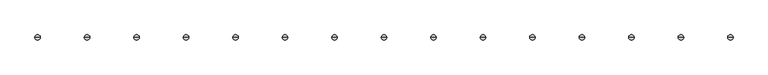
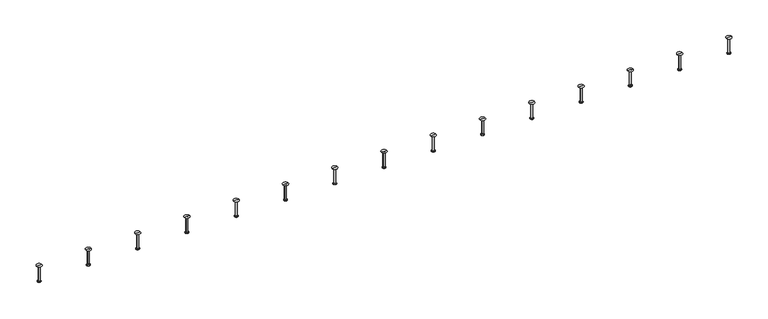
"""IFC4 building model written with IfcOpenShell, lengths in millimetres: fastener geometry, JTA-W JORDAHL® AnchorChannels : JTA-W L=6000 mm."""

from ifc_helpers import new_model, si_unit, frame, origin, place, context, project, spatial, polyline, circle_curve, source, transform, mapped, element, save
from ifc_brep_helpers import plane_surface, cylinder_surface, revolved_surface, advanced_brep


def fastener_0afebf88(model_context):
    return source(origin(), model_context, "Body", "AdvancedBrep", [
        advanced_brep(
        [(3991.6666667, 0.0, -30.0), (3978.1666667, 0.0, -30.0), (4005.1666667, 0.0, -30.0), (3983.1666667, 0.0, -115.0), (3991.6666667, 0.0, -115.0), (4000.1666667, 0.0, -115.0), (3983.1666667, 0.0, -113.0), (4000.1666667, 0.0, -113.0), (3987.1666667, 0.0, -110.6905989), (3996.1666667, 0.0, -110.6905989), (3987.1666667, 0.0, -32.5), (3996.1666667, 0.0, -32.5)],
        [
            (0, 1),
            (1, 2, circle_curve(frame((3991.6666667, 0.0, -30.0), z_axis=(0.0, 0.0, 1.0), x_axis=(1.0, 0.0, 0.0)), 13.5)),
            (2, 0),
            (2, 1, circle_curve(frame((3991.6666667, 0.0, -30.0), z_axis=(0.0, 0.0, 1.0), x_axis=(1.0, 0.0, 0.0)), 13.5)),
            (3, 4),
            (4, 5),
            (5, 3, circle_curve(frame((3991.6666667, 0.0, -115.0), z_axis=(0.0, 0.0, -1.0), x_axis=(1.0, 0.0, 0.0)), 8.5)),
            (3, 5, circle_curve(frame((3991.6666667, 0.0, -115.0), z_axis=(0.0, 0.0, -1.0), x_axis=(1.0, 0.0, 0.0)), 8.5)),
            (6, 3),
            (5, 7),
            (7, 6, circle_curve(frame((3991.6666667, 0.0, -113.0), z_axis=(0.0, 0.0, -1.0), x_axis=(1.0, 0.0, 0.0)), 8.5)),
            (6, 7, circle_curve(frame((3991.6666667, 0.0, -113.0), z_axis=(0.0, 0.0, -1.0), x_axis=(1.0, 0.0, 0.0)), 8.5)),
            (8, 6),
            (7, 9),
            (9, 8, circle_curve(frame((3991.6666667, 0.0, -110.6905989), z_axis=(0.0, 0.0, -1.0), x_axis=(1.0, 0.0, 0.0)), 4.5)),
            (8, 9, circle_curve(frame((3991.6666667, 0.0, -110.6905989), z_axis=(0.0, 0.0, -1.0), x_axis=(1.0, 0.0, 0.0)), 4.5)),
            (10, 8),
            (9, 11),
            (11, 10, circle_curve(frame((3991.6666667, 0.0, -32.5), z_axis=(0.0, 0.0, -1.0), x_axis=(1.0, 0.0, 0.0)), 4.5)),
            (10, 11, circle_curve(frame((3991.6666667, 0.0, -32.5), z_axis=(0.0, 0.0, -1.0), x_axis=(1.0, 0.0, 0.0)), 4.5)),
            (1, 10),
            (11, 2),
        ],
        [
            plane_surface(frame((3991.6666667, 0.0, -30.0), z_axis=(0.0, 0.0, 1.0), x_axis=(1.0, 0.0, 0.0))),
            plane_surface(frame((3991.6666667, 0.0, -115.0), z_axis=(0.0, 0.0, -1.0), x_axis=(1.0, 0.0, 0.0))),
            cylinder_surface(frame((3991.6666667, 0.0, 2299.3150031), z_axis=(0.0, 0.0, 1.0), x_axis=(1.0, 0.0, 0.0)), 8.5),
            revolved_surface(polyline([(4000.1666667, 0.0, -113.0), (3996.1666667, 0.0, -110.6905989)]), (3991.6666667, 0.0, 2299.3150031), (0.0, 0.0, 1.0)),
            cylinder_surface(frame((3991.6666667, 0.0, 2299.3150031), z_axis=(0.0, 0.0, 1.0), x_axis=(1.0, 0.0, 0.0)), 4.5),
            revolved_surface(polyline([(3996.1666667, 0.0, -32.5), (4005.1666667, 0.0, -30.0)]), (3991.6666667, 0.0, 2299.3150031), (0.0, 0.0, 1.0)),
        ],
        [
            (0, [[1, 2, 3]]),
            (0, [[-3, 4, -1]]),
            (1, [[5, 6, 7]]),
            (1, [[-6, -5, 8]]),
            (2, [[9, -7, 10, 11]]),
            (2, [[-10, -8, -9, 12]]),
            (3, [[13, -11, 14, 15]]),
            (3, [[-14, -12, -13, 16]]),
            (4, [[17, -15, 18, 19]]),
            (4, [[-18, -16, -17, 20]]),
            (5, [[21, -19, 22, -2]]),
            (5, [[-22, -20, -21, -4]]),
        ],
    ),
        advanced_brep(
        [(3743.75, 0.0, -30.0), (3730.25, 0.0, -30.0), (3757.25, 0.0, -30.0), (3735.25, 0.0, -115.0), (3743.75, 0.0, -115.0), (3752.25, 0.0, -115.0), (3735.25, 0.0, -113.0), (3752.25, 0.0, -113.0), (3739.25, 0.0, -110.6905989), (3748.25, 0.0, -110.6905989), (3739.25, 0.0, -32.5), (3748.25, 0.0, -32.5)],
        [
            (0, 1),
            (1, 2, circle_curve(frame((3743.75, 0.0, -30.0), z_axis=(0.0, 0.0, 1.0), x_axis=(1.0, 0.0, 0.0)), 13.5)),
            (2, 0),
            (2, 1, circle_curve(frame((3743.75, 0.0, -30.0), z_axis=(0.0, 0.0, 1.0), x_axis=(1.0, 0.0, 0.0)), 13.5)),
            (3, 4),
            (4, 5),
            (5, 3, circle_curve(frame((3743.75, 0.0, -115.0), z_axis=(0.0, 0.0, -1.0), x_axis=(1.0, 0.0, 0.0)), 8.5)),
            (3, 5, circle_curve(frame((3743.75, 0.0, -115.0), z_axis=(0.0, 0.0, -1.0), x_axis=(1.0, 0.0, 0.0)), 8.5)),
            (6, 3),
            (5, 7),
            (7, 6, circle_curve(frame((3743.75, 0.0, -113.0), z_axis=(0.0, 0.0, -1.0), x_axis=(1.0, 0.0, 0.0)), 8.5)),
            (6, 7, circle_curve(frame((3743.75, 0.0, -113.0), z_axis=(0.0, 0.0, -1.0), x_axis=(1.0, 0.0, 0.0)), 8.5)),
            (8, 6),
            (7, 9),
            (9, 8, circle_curve(frame((3743.75, 0.0, -110.6905989), z_axis=(0.0, 0.0, -1.0), x_axis=(1.0, 0.0, 0.0)), 4.5)),
            (8, 9, circle_curve(frame((3743.75, 0.0, -110.6905989), z_axis=(0.0, 0.0, -1.0), x_axis=(1.0, 0.0, 0.0)), 4.5)),
            (10, 8),
            (9, 11),
            (11, 10, circle_curve(frame((3743.75, 0.0, -32.5), z_axis=(0.0, 0.0, -1.0), x_axis=(1.0, 0.0, 0.0)), 4.5)),
            (10, 11, circle_curve(frame((3743.75, 0.0, -32.5), z_axis=(0.0, 0.0, -1.0), x_axis=(1.0, 0.0, 0.0)), 4.5)),
            (1, 10),
            (11, 2),
        ],
        [
            plane_surface(frame((3743.75, 0.0, -30.0), z_axis=(0.0, 0.0, 1.0), x_axis=(1.0, 0.0, 0.0))),
            plane_surface(frame((3743.75, 0.0, -115.0), z_axis=(0.0, 0.0, -1.0), x_axis=(1.0, 0.0, 0.0))),
            cylinder_surface(frame((3743.75, 0.0, 2299.3150031), z_axis=(0.0, 0.0, 1.0), x_axis=(1.0, 0.0, 0.0)), 8.5),
            revolved_surface(polyline([(3752.25, 0.0, -113.0), (3748.25, 0.0, -110.6905989)]), (3743.75, 0.0, 2299.3150031), (0.0, 0.0, 1.0)),
            cylinder_surface(frame((3743.75, 0.0, 2299.3150031), z_axis=(0.0, 0.0, 1.0), x_axis=(1.0, 0.0, 0.0)), 4.5),
            revolved_surface(polyline([(3748.25, 0.0, -32.5), (3757.25, 0.0, -30.0)]), (3743.75, 0.0, 2299.3150031), (0.0, 0.0, 1.0)),
        ],
        [
            (0, [[1, 2, 3]]),
            (0, [[-3, 4, -1]]),
            (1, [[5, 6, 7]]),
            (1, [[-6, -5, 8]]),
            (2, [[9, -7, 10, 11]]),
            (2, [[-10, -8, -9, 12]]),
            (3, [[13, -11, 14, 15]]),
            (3, [[-14, -12, -13, 16]]),
            (4, [[17, -15, 18, 19]]),
            (4, [[-18, -16, -17, 20]]),
            (5, [[21, -19, 22, -2]]),
            (5, [[-22, -20, -21, -4]]),
        ],
    ),
        advanced_brep(
        [(3495.8333333, 0.0, -30.0), (3482.3333333, 0.0, -30.0), (3509.3333333, 0.0, -30.0), (3487.3333333, 0.0, -115.0), (3495.8333333, 0.0, -115.0), (3504.3333333, 0.0, -115.0), (3487.3333333, 0.0, -113.0), (3504.3333333, 0.0, -113.0), (3491.3333333, 0.0, -110.6905989), (3500.3333333, 0.0, -110.6905989), (3491.3333333, 0.0, -32.5), (3500.3333333, 0.0, -32.5)],
        [
            (0, 1),
            (1, 2, circle_curve(frame((3495.8333333, 0.0, -30.0), z_axis=(0.0, 0.0, 1.0), x_axis=(1.0, 0.0, 0.0)), 13.5)),
            (2, 0),
            (2, 1, circle_curve(frame((3495.8333333, 0.0, -30.0), z_axis=(0.0, 0.0, 1.0), x_axis=(1.0, 0.0, 0.0)), 13.5)),
            (3, 4),
            (4, 5),
            (5, 3, circle_curve(frame((3495.8333333, 0.0, -115.0), z_axis=(0.0, 0.0, -1.0), x_axis=(1.0, 0.0, 0.0)), 8.5)),
            (3, 5, circle_curve(frame((3495.8333333, 0.0, -115.0), z_axis=(0.0, 0.0, -1.0), x_axis=(1.0, 0.0, 0.0)), 8.5)),
            (6, 3),
            (5, 7),
            (7, 6, circle_curve(frame((3495.8333333, 0.0, -113.0), z_axis=(0.0, 0.0, -1.0), x_axis=(1.0, 0.0, 0.0)), 8.5)),
            (6, 7, circle_curve(frame((3495.8333333, 0.0, -113.0), z_axis=(0.0, 0.0, -1.0), x_axis=(1.0, 0.0, 0.0)), 8.5)),
            (8, 6),
            (7, 9),
            (9, 8, circle_curve(frame((3495.8333333, 0.0, -110.6905989), z_axis=(0.0, 0.0, -1.0), x_axis=(1.0, 0.0, 0.0)), 4.5)),
            (8, 9, circle_curve(frame((3495.8333333, 0.0, -110.6905989), z_axis=(0.0, 0.0, -1.0), x_axis=(1.0, 0.0, 0.0)), 4.5)),
            (10, 8),
            (9, 11),
            (11, 10, circle_curve(frame((3495.8333333, 0.0, -32.5), z_axis=(0.0, 0.0, -1.0), x_axis=(1.0, 0.0, 0.0)), 4.5)),
            (10, 11, circle_curve(frame((3495.8333333, 0.0, -32.5), z_axis=(0.0, 0.0, -1.0), x_axis=(1.0, 0.0, 0.0)), 4.5)),
            (1, 10),
            (11, 2),
        ],
        [
            plane_surface(frame((3495.8333333, 0.0, -30.0), z_axis=(0.0, 0.0, 1.0), x_axis=(1.0, 0.0, 0.0))),
            plane_surface(frame((3495.8333333, 0.0, -115.0), z_axis=(0.0, 0.0, -1.0), x_axis=(1.0, 0.0, 0.0))),
            cylinder_surface(frame((3495.8333333, 0.0, 2299.3150031), z_axis=(0.0, 0.0, 1.0), x_axis=(1.0, 0.0, 0.0)), 8.5),
            revolved_surface(polyline([(3504.3333333, 0.0, -113.0), (3500.3333333, 0.0, -110.6905989)]), (3495.8333333, 0.0, 2299.3150031), (0.0, 0.0, 1.0)),
            cylinder_surface(frame((3495.8333333, 0.0, 2299.3150031), z_axis=(0.0, 0.0, 1.0), x_axis=(1.0, 0.0, 0.0)), 4.5),
            revolved_surface(polyline([(3500.3333333, 0.0, -32.5), (3509.3333333, 0.0, -30.0)]), (3495.8333333, 0.0, 2299.3150031), (0.0, 0.0, 1.0)),
        ],
        [
            (0, [[1, 2, 3]]),
            (0, [[-3, 4, -1]]),
            (1, [[5, 6, 7]]),
            (1, [[-6, -5, 8]]),
            (2, [[9, -7, 10, 11]]),
            (2, [[-10, -8, -9, 12]]),
            (3, [[13, -11, 14, 15]]),
            (3, [[-14, -12, -13, 16]]),
            (4, [[17, -15, 18, 19]]),
            (4, [[-18, -16, -17, 20]]),
            (5, [[21, -19, 22, -2]]),
            (5, [[-22, -20, -21, -4]]),
        ],
    ),
        advanced_brep(
        [(3247.9166667, 0.0, -30.0), (3234.4166667, 0.0, -30.0), (3261.4166667, 0.0, -30.0), (3239.4166667, 0.0, -115.0), (3247.9166667, 0.0, -115.0), (3256.4166667, 0.0, -115.0), (3239.4166667, 0.0, -113.0), (3256.4166667, 0.0, -113.0), (3243.4166667, 0.0, -110.6905989), (3252.4166667, 0.0, -110.6905989), (3243.4166667, 0.0, -32.5), (3252.4166667, 0.0, -32.5)],
        [
            (0, 1),
            (1, 2, circle_curve(frame((3247.9166667, 0.0, -30.0), z_axis=(0.0, 0.0, 1.0), x_axis=(1.0, 0.0, 0.0)), 13.5)),
            (2, 0),
            (2, 1, circle_curve(frame((3247.9166667, 0.0, -30.0), z_axis=(0.0, 0.0, 1.0), x_axis=(1.0, 0.0, 0.0)), 13.5)),
            (3, 4),
            (4, 5),
            (5, 3, circle_curve(frame((3247.9166667, 0.0, -115.0), z_axis=(0.0, 0.0, -1.0), x_axis=(1.0, 0.0, 0.0)), 8.5)),
            (3, 5, circle_curve(frame((3247.9166667, 0.0, -115.0), z_axis=(0.0, 0.0, -1.0), x_axis=(1.0, 0.0, 0.0)), 8.5)),
            (6, 3),
            (5, 7),
            (7, 6, circle_curve(frame((3247.9166667, 0.0, -113.0), z_axis=(0.0, 0.0, -1.0), x_axis=(1.0, 0.0, 0.0)), 8.5)),
            (6, 7, circle_curve(frame((3247.9166667, 0.0, -113.0), z_axis=(0.0, 0.0, -1.0), x_axis=(1.0, 0.0, 0.0)), 8.5)),
            (8, 6),
            (7, 9),
            (9, 8, circle_curve(frame((3247.9166667, 0.0, -110.6905989), z_axis=(0.0, 0.0, -1.0), x_axis=(1.0, 0.0, 0.0)), 4.5)),
            (8, 9, circle_curve(frame((3247.9166667, 0.0, -110.6905989), z_axis=(0.0, 0.0, -1.0), x_axis=(1.0, 0.0, 0.0)), 4.5)),
            (10, 8),
            (9, 11),
            (11, 10, circle_curve(frame((3247.9166667, 0.0, -32.5), z_axis=(0.0, 0.0, -1.0), x_axis=(1.0, 0.0, 0.0)), 4.5)),
            (10, 11, circle_curve(frame((3247.9166667, 0.0, -32.5), z_axis=(0.0, 0.0, -1.0), x_axis=(1.0, 0.0, 0.0)), 4.5)),
            (1, 10),
            (11, 2),
        ],
        [
            plane_surface(frame((3247.9166667, 0.0, -30.0), z_axis=(0.0, 0.0, 1.0), x_axis=(1.0, 0.0, 0.0))),
            plane_surface(frame((3247.9166667, 0.0, -115.0), z_axis=(0.0, 0.0, -1.0), x_axis=(1.0, 0.0, 0.0))),
            cylinder_surface(frame((3247.9166667, 0.0, 2299.3150031), z_axis=(0.0, 0.0, 1.0), x_axis=(1.0, 0.0, 0.0)), 8.5),
            revolved_surface(polyline([(3256.4166667, 0.0, -113.0), (3252.4166667, 0.0, -110.6905989)]), (3247.9166667, 0.0, 2299.3150031), (0.0, 0.0, 1.0)),
            cylinder_surface(frame((3247.9166667, 0.0, 2299.3150031), z_axis=(0.0, 0.0, 1.0), x_axis=(1.0, 0.0, 0.0)), 4.5),
            revolved_surface(polyline([(3252.4166667, 0.0, -32.5), (3261.4166667, 0.0, -30.0)]), (3247.9166667, 0.0, 2299.3150031), (0.0, 0.0, 1.0)),
        ],
        [
            (0, [[1, 2, 3]]),
            (0, [[-3, 4, -1]]),
            (1, [[5, 6, 7]]),
            (1, [[-6, -5, 8]]),
            (2, [[9, -7, 10, 11]]),
            (2, [[-10, -8, -9, 12]]),
            (3, [[13, -11, 14, 15]]),
            (3, [[-14, -12, -13, 16]]),
            (4, [[17, -15, 18, 19]]),
            (4, [[-18, -16, -17, 20]]),
            (5, [[21, -19, 22, -2]]),
            (5, [[-22, -20, -21, -4]]),
        ],
    ),
        advanced_brep(
        [(3000.0, 0.0, -30.0), (2986.5, 0.0, -30.0), (3013.5, 0.0, -30.0), (2991.5, 0.0, -115.0), (3000.0, 0.0, -115.0), (3008.5, 0.0, -115.0), (2991.5, 0.0, -113.0), (3008.5, 0.0, -113.0), (2995.5, 0.0, -110.6905989), (3004.5, 0.0, -110.6905989), (2995.5, 0.0, -32.5), (3004.5, 0.0, -32.5)],
        [
            (0, 1),
            (1, 2, circle_curve(frame((3000.0, 0.0, -30.0), z_axis=(0.0, 0.0, 1.0), x_axis=(1.0, 0.0, 0.0)), 13.5)),
            (2, 0),
            (2, 1, circle_curve(frame((3000.0, 0.0, -30.0), z_axis=(0.0, 0.0, 1.0), x_axis=(1.0, 0.0, 0.0)), 13.5)),
            (3, 4),
            (4, 5),
            (5, 3, circle_curve(frame((3000.0, 0.0, -115.0), z_axis=(0.0, 0.0, -1.0), x_axis=(1.0, 0.0, 0.0)), 8.5)),
            (3, 5, circle_curve(frame((3000.0, 0.0, -115.0), z_axis=(0.0, 0.0, -1.0), x_axis=(1.0, 0.0, 0.0)), 8.5)),
            (6, 3),
            (5, 7),
            (7, 6, circle_curve(frame((3000.0, 0.0, -113.0), z_axis=(0.0, 0.0, -1.0), x_axis=(1.0, 0.0, 0.0)), 8.5)),
            (6, 7, circle_curve(frame((3000.0, 0.0, -113.0), z_axis=(0.0, 0.0, -1.0), x_axis=(1.0, 0.0, 0.0)), 8.5)),
            (8, 6),
            (7, 9),
            (9, 8, circle_curve(frame((3000.0, 0.0, -110.6905989), z_axis=(0.0, 0.0, -1.0), x_axis=(1.0, 0.0, 0.0)), 4.5)),
            (8, 9, circle_curve(frame((3000.0, 0.0, -110.6905989), z_axis=(0.0, 0.0, -1.0), x_axis=(1.0, 0.0, 0.0)), 4.5)),
            (10, 8),
            (9, 11),
            (11, 10, circle_curve(frame((3000.0, 0.0, -32.5), z_axis=(0.0, 0.0, -1.0), x_axis=(1.0, 0.0, 0.0)), 4.5)),
            (10, 11, circle_curve(frame((3000.0, 0.0, -32.5), z_axis=(0.0, 0.0, -1.0), x_axis=(1.0, 0.0, 0.0)), 4.5)),
            (1, 10),
            (11, 2),
        ],
        [
            plane_surface(frame((3000.0, 0.0, -30.0), z_axis=(0.0, 0.0, 1.0), x_axis=(1.0, 0.0, 0.0))),
            plane_surface(frame((3000.0, 0.0, -115.0), z_axis=(0.0, 0.0, -1.0), x_axis=(1.0, 0.0, 0.0))),
            cylinder_surface(frame((3000.0, 0.0, 2299.3150031), z_axis=(0.0, 0.0, 1.0), x_axis=(1.0, 0.0, 0.0)), 8.5),
            revolved_surface(polyline([(3008.5, 0.0, -113.0), (3004.5, 0.0, -110.6905989)]), (3000.0, 0.0, 2299.3150031), (0.0, 0.0, 1.0)),
            cylinder_surface(frame((3000.0, 0.0, 2299.3150031), z_axis=(0.0, 0.0, 1.0), x_axis=(1.0, 0.0, 0.0)), 4.5),
            revolved_surface(polyline([(3004.5, 0.0, -32.5), (3013.5, 0.0, -30.0)]), (3000.0, 0.0, 2299.3150031), (0.0, 0.0, 1.0)),
        ],
        [
            (0, [[1, 2, 3]]),
            (0, [[-3, 4, -1]]),
            (1, [[5, 6, 7]]),
            (1, [[-6, -5, 8]]),
            (2, [[9, -7, 10, 11]]),
            (2, [[-10, -8, -9, 12]]),
            (3, [[13, -11, 14, 15]]),
            (3, [[-14, -12, -13, 16]]),
            (4, [[17, -15, 18, 19]]),
            (4, [[-18, -16, -17, 20]]),
            (5, [[21, -19, 22, -2]]),
            (5, [[-22, -20, -21, -4]]),
        ],
    ),
        advanced_brep(
        [(2752.0833333, 0.0, -30.0), (2738.5833333, 0.0, -30.0), (2765.5833333, 0.0, -30.0), (2743.5833333, 0.0, -115.0), (2752.0833333, 0.0, -115.0), (2760.5833333, 0.0, -115.0), (2743.5833333, 0.0, -113.0), (2760.5833333, 0.0, -113.0), (2747.5833333, 0.0, -110.6905989), (2756.5833333, 0.0, -110.6905989), (2747.5833333, 0.0, -32.5), (2756.5833333, 0.0, -32.5)],
        [
            (0, 1),
            (1, 2, circle_curve(frame((2752.0833333, 0.0, -30.0), z_axis=(0.0, 0.0, 1.0), x_axis=(1.0, 0.0, 0.0)), 13.5)),
            (2, 0),
            (2, 1, circle_curve(frame((2752.0833333, 0.0, -30.0), z_axis=(0.0, 0.0, 1.0), x_axis=(1.0, 0.0, 0.0)), 13.5)),
            (3, 4),
            (4, 5),
            (5, 3, circle_curve(frame((2752.0833333, 0.0, -115.0), z_axis=(0.0, 0.0, -1.0), x_axis=(1.0, 0.0, 0.0)), 8.5)),
            (3, 5, circle_curve(frame((2752.0833333, 0.0, -115.0), z_axis=(0.0, 0.0, -1.0), x_axis=(1.0, 0.0, 0.0)), 8.5)),
            (6, 3),
            (5, 7),
            (7, 6, circle_curve(frame((2752.0833333, 0.0, -113.0), z_axis=(0.0, 0.0, -1.0), x_axis=(1.0, 0.0, 0.0)), 8.5)),
            (6, 7, circle_curve(frame((2752.0833333, 0.0, -113.0), z_axis=(0.0, 0.0, -1.0), x_axis=(1.0, 0.0, 0.0)), 8.5)),
            (8, 6),
            (7, 9),
            (9, 8, circle_curve(frame((2752.0833333, 0.0, -110.6905989), z_axis=(0.0, 0.0, -1.0), x_axis=(1.0, 0.0, 0.0)), 4.5)),
            (8, 9, circle_curve(frame((2752.0833333, 0.0, -110.6905989), z_axis=(0.0, 0.0, -1.0), x_axis=(1.0, 0.0, 0.0)), 4.5)),
            (10, 8),
            (9, 11),
            (11, 10, circle_curve(frame((2752.0833333, 0.0, -32.5), z_axis=(0.0, 0.0, -1.0), x_axis=(1.0, 0.0, 0.0)), 4.5)),
            (10, 11, circle_curve(frame((2752.0833333, 0.0, -32.5), z_axis=(0.0, 0.0, -1.0), x_axis=(1.0, 0.0, 0.0)), 4.5)),
            (1, 10),
            (11, 2),
        ],
        [
            plane_surface(frame((2752.0833333, 0.0, -30.0), z_axis=(0.0, 0.0, 1.0), x_axis=(1.0, 0.0, 0.0))),
            plane_surface(frame((2752.0833333, 0.0, -115.0), z_axis=(0.0, 0.0, -1.0), x_axis=(1.0, 0.0, 0.0))),
            cylinder_surface(frame((2752.0833333, 0.0, 2299.3150031), z_axis=(0.0, 0.0, 1.0), x_axis=(1.0, 0.0, 0.0)), 8.5),
            revolved_surface(polyline([(2760.5833333, 0.0, -113.0), (2756.5833333, 0.0, -110.6905989)]), (2752.0833333, 0.0, 2299.3150031), (0.0, 0.0, 1.0)),
            cylinder_surface(frame((2752.0833333, 0.0, 2299.3150031), z_axis=(0.0, 0.0, 1.0), x_axis=(1.0, 0.0, 0.0)), 4.5),
            revolved_surface(polyline([(2756.5833333, 0.0, -32.5), (2765.5833333, 0.0, -30.0)]), (2752.0833333, 0.0, 2299.3150031), (0.0, 0.0, 1.0)),
        ],
        [
            (0, [[1, 2, 3]]),
            (0, [[-3, 4, -1]]),
            (1, [[5, 6, 7]]),
            (1, [[-6, -5, 8]]),
            (2, [[9, -7, 10, 11]]),
            (2, [[-10, -8, -9, 12]]),
            (3, [[13, -11, 14, 15]]),
            (3, [[-14, -12, -13, 16]]),
            (4, [[17, -15, 18, 19]]),
            (4, [[-18, -16, -17, 20]]),
            (5, [[21, -19, 22, -2]]),
            (5, [[-22, -20, -21, -4]]),
        ],
    ),
        advanced_brep(
        [(2504.1666667, 0.0, -30.0), (2490.6666667, 0.0, -30.0), (2517.6666667, 0.0, -30.0), (2495.6666667, 0.0, -115.0), (2504.1666667, 0.0, -115.0), (2512.6666667, 0.0, -115.0), (2495.6666667, 0.0, -113.0), (2512.6666667, 0.0, -113.0), (2499.6666667, 0.0, -110.6905989), (2508.6666667, 0.0, -110.6905989), (2499.6666667, 0.0, -32.5), (2508.6666667, 0.0, -32.5)],
        [
            (0, 1),
            (1, 2, circle_curve(frame((2504.1666667, 0.0, -30.0), z_axis=(0.0, 0.0, 1.0), x_axis=(1.0, 0.0, 0.0)), 13.5)),
            (2, 0),
            (2, 1, circle_curve(frame((2504.1666667, 0.0, -30.0), z_axis=(0.0, 0.0, 1.0), x_axis=(1.0, 0.0, 0.0)), 13.5)),
            (3, 4),
            (4, 5),
            (5, 3, circle_curve(frame((2504.1666667, 0.0, -115.0), z_axis=(0.0, 0.0, -1.0), x_axis=(1.0, 0.0, 0.0)), 8.5)),
            (3, 5, circle_curve(frame((2504.1666667, 0.0, -115.0), z_axis=(0.0, 0.0, -1.0), x_axis=(1.0, 0.0, 0.0)), 8.5)),
            (6, 3),
            (5, 7),
            (7, 6, circle_curve(frame((2504.1666667, 0.0, -113.0), z_axis=(0.0, 0.0, -1.0), x_axis=(1.0, 0.0, 0.0)), 8.5)),
            (6, 7, circle_curve(frame((2504.1666667, 0.0, -113.0), z_axis=(0.0, 0.0, -1.0), x_axis=(1.0, 0.0, 0.0)), 8.5)),
            (8, 6),
            (7, 9),
            (9, 8, circle_curve(frame((2504.1666667, 0.0, -110.6905989), z_axis=(0.0, 0.0, -1.0), x_axis=(1.0, 0.0, 0.0)), 4.5)),
            (8, 9, circle_curve(frame((2504.1666667, 0.0, -110.6905989), z_axis=(0.0, 0.0, -1.0), x_axis=(1.0, 0.0, 0.0)), 4.5)),
            (10, 8),
            (9, 11),
            (11, 10, circle_curve(frame((2504.1666667, 0.0, -32.5), z_axis=(0.0, 0.0, -1.0), x_axis=(1.0, 0.0, 0.0)), 4.5)),
            (10, 11, circle_curve(frame((2504.1666667, 0.0, -32.5), z_axis=(0.0, 0.0, -1.0), x_axis=(1.0, 0.0, 0.0)), 4.5)),
            (1, 10),
            (11, 2),
        ],
        [
            plane_surface(frame((2504.1666667, 0.0, -30.0), z_axis=(0.0, 0.0, 1.0), x_axis=(1.0, 0.0, 0.0))),
            plane_surface(frame((2504.1666667, 0.0, -115.0), z_axis=(0.0, 0.0, -1.0), x_axis=(1.0, 0.0, 0.0))),
            cylinder_surface(frame((2504.1666667, 0.0, 2299.3150031), z_axis=(0.0, 0.0, 1.0), x_axis=(1.0, 0.0, 0.0)), 8.5),
            revolved_surface(polyline([(2512.6666667, 0.0, -113.0), (2508.6666667, 0.0, -110.6905989)]), (2504.1666667, 0.0, 2299.3150031), (0.0, 0.0, 1.0)),
            cylinder_surface(frame((2504.1666667, 0.0, 2299.3150031), z_axis=(0.0, 0.0, 1.0), x_axis=(1.0, 0.0, 0.0)), 4.5),
            revolved_surface(polyline([(2508.6666667, 0.0, -32.5), (2517.6666667, 0.0, -30.0)]), (2504.1666667, 0.0, 2299.3150031), (0.0, 0.0, 1.0)),
        ],
        [
            (0, [[1, 2, 3]]),
            (0, [[-3, 4, -1]]),
            (1, [[5, 6, 7]]),
            (1, [[-6, -5, 8]]),
            (2, [[9, -7, 10, 11]]),
            (2, [[-10, -8, -9, 12]]),
            (3, [[13, -11, 14, 15]]),
            (3, [[-14, -12, -13, 16]]),
            (4, [[17, -15, 18, 19]]),
            (4, [[-18, -16, -17, 20]]),
            (5, [[21, -19, 22, -2]]),
            (5, [[-22, -20, -21, -4]]),
        ],
    ),
        advanced_brep(
        [(2256.25, 0.0, -30.0), (2242.75, 0.0, -30.0), (2269.75, 0.0, -30.0), (2247.75, 0.0, -115.0), (2256.25, 0.0, -115.0), (2264.75, 0.0, -115.0), (2247.75, 0.0, -113.0), (2264.75, 0.0, -113.0), (2251.75, 0.0, -110.6905989), (2260.75, 0.0, -110.6905989), (2251.75, 0.0, -32.5), (2260.75, 0.0, -32.5)],
        [
            (0, 1),
            (1, 2, circle_curve(frame((2256.25, 0.0, -30.0), z_axis=(0.0, 0.0, 1.0), x_axis=(1.0, 0.0, 0.0)), 13.5)),
            (2, 0),
            (2, 1, circle_curve(frame((2256.25, 0.0, -30.0), z_axis=(0.0, 0.0, 1.0), x_axis=(1.0, 0.0, 0.0)), 13.5)),
            (3, 4),
            (4, 5),
            (5, 3, circle_curve(frame((2256.25, 0.0, -115.0), z_axis=(0.0, 0.0, -1.0), x_axis=(1.0, 0.0, 0.0)), 8.5)),
            (3, 5, circle_curve(frame((2256.25, 0.0, -115.0), z_axis=(0.0, 0.0, -1.0), x_axis=(1.0, 0.0, 0.0)), 8.5)),
            (6, 3),
            (5, 7),
            (7, 6, circle_curve(frame((2256.25, 0.0, -113.0), z_axis=(0.0, 0.0, -1.0), x_axis=(1.0, 0.0, 0.0)), 8.5)),
            (6, 7, circle_curve(frame((2256.25, 0.0, -113.0), z_axis=(0.0, 0.0, -1.0), x_axis=(1.0, 0.0, 0.0)), 8.5)),
            (8, 6),
            (7, 9),
            (9, 8, circle_curve(frame((2256.25, 0.0, -110.6905989), z_axis=(0.0, 0.0, -1.0), x_axis=(1.0, 0.0, 0.0)), 4.5)),
            (8, 9, circle_curve(frame((2256.25, 0.0, -110.6905989), z_axis=(0.0, 0.0, -1.0), x_axis=(1.0, 0.0, 0.0)), 4.5)),
            (10, 8),
            (9, 11),
            (11, 10, circle_curve(frame((2256.25, 0.0, -32.5), z_axis=(0.0, 0.0, -1.0), x_axis=(1.0, 0.0, 0.0)), 4.5)),
            (10, 11, circle_curve(frame((2256.25, 0.0, -32.5), z_axis=(0.0, 0.0, -1.0), x_axis=(1.0, 0.0, 0.0)), 4.5)),
            (1, 10),
            (11, 2),
        ],
        [
            plane_surface(frame((2256.25, 0.0, -30.0), z_axis=(0.0, 0.0, 1.0), x_axis=(1.0, 0.0, 0.0))),
            plane_surface(frame((2256.25, 0.0, -115.0), z_axis=(0.0, 0.0, -1.0), x_axis=(1.0, 0.0, 0.0))),
            cylinder_surface(frame((2256.25, 0.0, 2299.3150031), z_axis=(0.0, 0.0, 1.0), x_axis=(1.0, 0.0, 0.0)), 8.5),
            revolved_surface(polyline([(2264.75, 0.0, -113.0), (2260.75, 0.0, -110.6905989)]), (2256.25, 0.0, 2299.3150031), (0.0, 0.0, 1.0)),
            cylinder_surface(frame((2256.25, 0.0, 2299.3150031), z_axis=(0.0, 0.0, 1.0), x_axis=(1.0, 0.0, 0.0)), 4.5),
            revolved_surface(polyline([(2260.75, 0.0, -32.5), (2269.75, 0.0, -30.0)]), (2256.25, 0.0, 2299.3150031), (0.0, 0.0, 1.0)),
        ],
        [
            (0, [[1, 2, 3]]),
            (0, [[-3, 4, -1]]),
            (1, [[5, 6, 7]]),
            (1, [[-6, -5, 8]]),
            (2, [[9, -7, 10, 11]]),
            (2, [[-10, -8, -9, 12]]),
            (3, [[13, -11, 14, 15]]),
            (3, [[-14, -12, -13, 16]]),
            (4, [[17, -15, 18, 19]]),
            (4, [[-18, -16, -17, 20]]),
            (5, [[21, -19, 22, -2]]),
            (5, [[-22, -20, -21, -4]]),
        ],
    ),
        advanced_brep(
        [(2008.3333333, 0.0, -30.0), (1994.8333333, 0.0, -30.0), (2021.8333333, 0.0, -30.0), (1999.8333333, 0.0, -115.0), (2008.3333333, 0.0, -115.0), (2016.8333333, 0.0, -115.0), (1999.8333333, 0.0, -113.0), (2016.8333333, 0.0, -113.0), (2003.8333333, 0.0, -110.6905989), (2012.8333333, 0.0, -110.6905989), (2003.8333333, 0.0, -32.5), (2012.8333333, 0.0, -32.5)],
        [
            (0, 1),
            (1, 2, circle_curve(frame((2008.3333333, 0.0, -30.0), z_axis=(0.0, 0.0, 1.0), x_axis=(1.0, 0.0, 0.0)), 13.5)),
            (2, 0),
            (2, 1, circle_curve(frame((2008.3333333, 0.0, -30.0), z_axis=(0.0, 0.0, 1.0), x_axis=(1.0, 0.0, 0.0)), 13.5)),
            (3, 4),
            (4, 5),
            (5, 3, circle_curve(frame((2008.3333333, 0.0, -115.0), z_axis=(0.0, 0.0, -1.0), x_axis=(1.0, 0.0, 0.0)), 8.5)),
            (3, 5, circle_curve(frame((2008.3333333, 0.0, -115.0), z_axis=(0.0, 0.0, -1.0), x_axis=(1.0, 0.0, 0.0)), 8.5)),
            (6, 3),
            (5, 7),
            (7, 6, circle_curve(frame((2008.3333333, 0.0, -113.0), z_axis=(0.0, 0.0, -1.0), x_axis=(1.0, 0.0, 0.0)), 8.5)),
            (6, 7, circle_curve(frame((2008.3333333, 0.0, -113.0), z_axis=(0.0, 0.0, -1.0), x_axis=(1.0, 0.0, 0.0)), 8.5)),
            (8, 6),
            (7, 9),
            (9, 8, circle_curve(frame((2008.3333333, 0.0, -110.6905989), z_axis=(0.0, 0.0, -1.0), x_axis=(1.0, 0.0, 0.0)), 4.5)),
            (8, 9, circle_curve(frame((2008.3333333, 0.0, -110.6905989), z_axis=(0.0, 0.0, -1.0), x_axis=(1.0, 0.0, 0.0)), 4.5)),
            (10, 8),
            (9, 11),
            (11, 10, circle_curve(frame((2008.3333333, 0.0, -32.5), z_axis=(0.0, 0.0, -1.0), x_axis=(1.0, 0.0, 0.0)), 4.5)),
            (10, 11, circle_curve(frame((2008.3333333, 0.0, -32.5), z_axis=(0.0, 0.0, -1.0), x_axis=(1.0, 0.0, 0.0)), 4.5)),
            (1, 10),
            (11, 2),
        ],
        [
            plane_surface(frame((2008.3333333, 0.0, -30.0), z_axis=(0.0, 0.0, 1.0), x_axis=(1.0, 0.0, 0.0))),
            plane_surface(frame((2008.3333333, 0.0, -115.0), z_axis=(0.0, 0.0, -1.0), x_axis=(1.0, 0.0, 0.0))),
            cylinder_surface(frame((2008.3333333, 0.0, 2299.3150031), z_axis=(0.0, 0.0, 1.0), x_axis=(1.0, 0.0, 0.0)), 8.5),
            revolved_surface(polyline([(2016.8333333, 0.0, -113.0), (2012.8333333, 0.0, -110.6905989)]), (2008.3333333, 0.0, 2299.3150031), (0.0, 0.0, 1.0)),
            cylinder_surface(frame((2008.3333333, 0.0, 2299.3150031), z_axis=(0.0, 0.0, 1.0), x_axis=(1.0, 0.0, 0.0)), 4.5),
            revolved_surface(polyline([(2012.8333333, 0.0, -32.5), (2021.8333333, 0.0, -30.0)]), (2008.3333333, 0.0, 2299.3150031), (0.0, 0.0, 1.0)),
        ],
        [
            (0, [[1, 2, 3]]),
            (0, [[-3, 4, -1]]),
            (1, [[5, 6, 7]]),
            (1, [[-6, -5, 8]]),
            (2, [[9, -7, 10, 11]]),
            (2, [[-10, -8, -9, 12]]),
            (3, [[13, -11, 14, 15]]),
            (3, [[-14, -12, -13, 16]]),
            (4, [[17, -15, 18, 19]]),
            (4, [[-18, -16, -17, 20]]),
            (5, [[21, -19, 22, -2]]),
            (5, [[-22, -20, -21, -4]]),
        ],
    ),
        advanced_brep(
        [(1760.4166667, 0.0, -30.0), (1746.9166667, 0.0, -30.0), (1773.9166667, 0.0, -30.0), (1751.9166667, 0.0, -115.0), (1760.4166667, 0.0, -115.0), (1768.9166667, 0.0, -115.0), (1751.9166667, 0.0, -113.0), (1768.9166667, 0.0, -113.0), (1755.9166667, 0.0, -110.6905989), (1764.9166667, 0.0, -110.6905989), (1755.9166667, 0.0, -32.5), (1764.9166667, 0.0, -32.5)],
        [
            (0, 1),
            (1, 2, circle_curve(frame((1760.4166667, 0.0, -30.0), z_axis=(0.0, 0.0, 1.0), x_axis=(1.0, 0.0, 0.0)), 13.5)),
            (2, 0),
            (2, 1, circle_curve(frame((1760.4166667, 0.0, -30.0), z_axis=(0.0, 0.0, 1.0), x_axis=(1.0, 0.0, 0.0)), 13.5)),
            (3, 4),
            (4, 5),
            (5, 3, circle_curve(frame((1760.4166667, 0.0, -115.0), z_axis=(0.0, 0.0, -1.0), x_axis=(1.0, 0.0, 0.0)), 8.5)),
            (3, 5, circle_curve(frame((1760.4166667, 0.0, -115.0), z_axis=(0.0, 0.0, -1.0), x_axis=(1.0, 0.0, 0.0)), 8.5)),
            (6, 3),
            (5, 7),
            (7, 6, circle_curve(frame((1760.4166667, 0.0, -113.0), z_axis=(0.0, 0.0, -1.0), x_axis=(1.0, 0.0, 0.0)), 8.5)),
            (6, 7, circle_curve(frame((1760.4166667, 0.0, -113.0), z_axis=(0.0, 0.0, -1.0), x_axis=(1.0, 0.0, 0.0)), 8.5)),
            (8, 6),
            (7, 9),
            (9, 8, circle_curve(frame((1760.4166667, 0.0, -110.6905989), z_axis=(0.0, 0.0, -1.0), x_axis=(1.0, 0.0, 0.0)), 4.5)),
            (8, 9, circle_curve(frame((1760.4166667, 0.0, -110.6905989), z_axis=(0.0, 0.0, -1.0), x_axis=(1.0, 0.0, 0.0)), 4.5)),
            (10, 8),
            (9, 11),
            (11, 10, circle_curve(frame((1760.4166667, 0.0, -32.5), z_axis=(0.0, 0.0, -1.0), x_axis=(1.0, 0.0, 0.0)), 4.5)),
            (10, 11, circle_curve(frame((1760.4166667, 0.0, -32.5), z_axis=(0.0, 0.0, -1.0), x_axis=(1.0, 0.0, 0.0)), 4.5)),
            (1, 10),
            (11, 2),
        ],
        [
            plane_surface(frame((1760.4166667, 0.0, -30.0), z_axis=(0.0, 0.0, 1.0), x_axis=(1.0, 0.0, 0.0))),
            plane_surface(frame((1760.4166667, 0.0, -115.0), z_axis=(0.0, 0.0, -1.0), x_axis=(1.0, 0.0, 0.0))),
            cylinder_surface(frame((1760.4166667, 0.0, 2299.3150031), z_axis=(0.0, 0.0, 1.0), x_axis=(1.0, 0.0, 0.0)), 8.5),
            revolved_surface(polyline([(1768.9166667, 0.0, -113.0), (1764.9166667, 0.0, -110.6905989)]), (1760.4166667, 0.0, 2299.3150031), (0.0, 0.0, 1.0)),
            cylinder_surface(frame((1760.4166667, 0.0, 2299.3150031), z_axis=(0.0, 0.0, 1.0), x_axis=(1.0, 0.0, 0.0)), 4.5),
            revolved_surface(polyline([(1764.9166667, 0.0, -32.5), (1773.9166667, 0.0, -30.0)]), (1760.4166667, 0.0, 2299.3150031), (0.0, 0.0, 1.0)),
        ],
        [
            (0, [[1, 2, 3]]),
            (0, [[-3, 4, -1]]),
            (1, [[5, 6, 7]]),
            (1, [[-6, -5, 8]]),
            (2, [[9, -7, 10, 11]]),
            (2, [[-10, -8, -9, 12]]),
            (3, [[13, -11, 14, 15]]),
            (3, [[-14, -12, -13, 16]]),
            (4, [[17, -15, 18, 19]]),
            (4, [[-18, -16, -17, 20]]),
            (5, [[21, -19, 22, -2]]),
            (5, [[-22, -20, -21, -4]]),
        ],
    ),
        advanced_brep(
        [(1512.5, 0.0, -30.0), (1499.0, 0.0, -30.0), (1526.0, 0.0, -30.0), (1504.0, 0.0, -115.0), (1512.5, 0.0, -115.0), (1521.0, 0.0, -115.0), (1504.0, 0.0, -113.0), (1521.0, 0.0, -113.0), (1508.0, 0.0, -110.6905989), (1517.0, 0.0, -110.6905989), (1508.0, 0.0, -32.5), (1517.0, 0.0, -32.5)],
        [
            (0, 1),
            (1, 2, circle_curve(frame((1512.5, 0.0, -30.0), z_axis=(0.0, 0.0, 1.0), x_axis=(1.0, 0.0, 0.0)), 13.5)),
            (2, 0),
            (2, 1, circle_curve(frame((1512.5, 0.0, -30.0), z_axis=(0.0, 0.0, 1.0), x_axis=(1.0, 0.0, 0.0)), 13.5)),
            (3, 4),
            (4, 5),
            (5, 3, circle_curve(frame((1512.5, 0.0, -115.0), z_axis=(0.0, 0.0, -1.0), x_axis=(1.0, 0.0, 0.0)), 8.5)),
            (3, 5, circle_curve(frame((1512.5, 0.0, -115.0), z_axis=(0.0, 0.0, -1.0), x_axis=(1.0, 0.0, 0.0)), 8.5)),
            (6, 3),
            (5, 7),
            (7, 6, circle_curve(frame((1512.5, 0.0, -113.0), z_axis=(0.0, 0.0, -1.0), x_axis=(1.0, 0.0, 0.0)), 8.5)),
            (6, 7, circle_curve(frame((1512.5, 0.0, -113.0), z_axis=(0.0, 0.0, -1.0), x_axis=(1.0, 0.0, 0.0)), 8.5)),
            (8, 6),
            (7, 9),
            (9, 8, circle_curve(frame((1512.5, 0.0, -110.6905989), z_axis=(0.0, 0.0, -1.0), x_axis=(1.0, 0.0, 0.0)), 4.5)),
            (8, 9, circle_curve(frame((1512.5, 0.0, -110.6905989), z_axis=(0.0, 0.0, -1.0), x_axis=(1.0, 0.0, 0.0)), 4.5)),
            (10, 8),
            (9, 11),
            (11, 10, circle_curve(frame((1512.5, 0.0, -32.5), z_axis=(0.0, 0.0, -1.0), x_axis=(1.0, 0.0, 0.0)), 4.5)),
            (10, 11, circle_curve(frame((1512.5, 0.0, -32.5), z_axis=(0.0, 0.0, -1.0), x_axis=(1.0, 0.0, 0.0)), 4.5)),
            (1, 10),
            (11, 2),
        ],
        [
            plane_surface(frame((1512.5, 0.0, -30.0), z_axis=(0.0, 0.0, 1.0), x_axis=(1.0, 0.0, 0.0))),
            plane_surface(frame((1512.5, 0.0, -115.0), z_axis=(0.0, 0.0, -1.0), x_axis=(1.0, 0.0, 0.0))),
            cylinder_surface(frame((1512.5, 0.0, 2299.3150031), z_axis=(0.0, 0.0, 1.0), x_axis=(1.0, 0.0, 0.0)), 8.5),
            revolved_surface(polyline([(1521.0, 0.0, -113.0), (1517.0, 0.0, -110.6905989)]), (1512.5, 0.0, 2299.3150031), (0.0, 0.0, 1.0)),
            cylinder_surface(frame((1512.5, 0.0, 2299.3150031), z_axis=(0.0, 0.0, 1.0), x_axis=(1.0, 0.0, 0.0)), 4.5),
            revolved_surface(polyline([(1517.0, 0.0, -32.5), (1526.0, 0.0, -30.0)]), (1512.5, 0.0, 2299.3150031), (0.0, 0.0, 1.0)),
        ],
        [
            (0, [[1, 2, 3]]),
            (0, [[-3, 4, -1]]),
            (1, [[5, 6, 7]]),
            (1, [[-6, -5, 8]]),
            (2, [[9, -7, 10, 11]]),
            (2, [[-10, -8, -9, 12]]),
            (3, [[13, -11, 14, 15]]),
            (3, [[-14, -12, -13, 16]]),
            (4, [[17, -15, 18, 19]]),
            (4, [[-18, -16, -17, 20]]),
            (5, [[21, -19, 22, -2]]),
            (5, [[-22, -20, -21, -4]]),
        ],
    ),
        advanced_brep(
        [(1264.5833333, 0.0, -30.0), (1251.0833333, 0.0, -30.0), (1278.0833333, 0.0, -30.0), (1256.0833333, 0.0, -115.0), (1264.5833333, 0.0, -115.0), (1273.0833333, 0.0, -115.0), (1256.0833333, 0.0, -113.0), (1273.0833333, 0.0, -113.0), (1260.0833333, 0.0, -110.6905989), (1269.0833333, 0.0, -110.6905989), (1260.0833333, 0.0, -32.5), (1269.0833333, 0.0, -32.5)],
        [
            (0, 1),
            (1, 2, circle_curve(frame((1264.5833333, 0.0, -30.0), z_axis=(0.0, 0.0, 1.0), x_axis=(1.0, 0.0, 0.0)), 13.5)),
            (2, 0),
            (2, 1, circle_curve(frame((1264.5833333, 0.0, -30.0), z_axis=(0.0, 0.0, 1.0), x_axis=(1.0, 0.0, 0.0)), 13.5)),
            (3, 4),
            (4, 5),
            (5, 3, circle_curve(frame((1264.5833333, 0.0, -115.0), z_axis=(0.0, 0.0, -1.0), x_axis=(1.0, 0.0, 0.0)), 8.5)),
            (3, 5, circle_curve(frame((1264.5833333, 0.0, -115.0), z_axis=(0.0, 0.0, -1.0), x_axis=(1.0, 0.0, 0.0)), 8.5)),
            (6, 3),
            (5, 7),
            (7, 6, circle_curve(frame((1264.5833333, 0.0, -113.0), z_axis=(0.0, 0.0, -1.0), x_axis=(1.0, 0.0, 0.0)), 8.5)),
            (6, 7, circle_curve(frame((1264.5833333, 0.0, -113.0), z_axis=(0.0, 0.0, -1.0), x_axis=(1.0, 0.0, 0.0)), 8.5)),
            (8, 6),
            (7, 9),
            (9, 8, circle_curve(frame((1264.5833333, 0.0, -110.6905989), z_axis=(0.0, 0.0, -1.0), x_axis=(1.0, 0.0, 0.0)), 4.5)),
            (8, 9, circle_curve(frame((1264.5833333, 0.0, -110.6905989), z_axis=(0.0, 0.0, -1.0), x_axis=(1.0, 0.0, 0.0)), 4.5)),
            (10, 8),
            (9, 11),
            (11, 10, circle_curve(frame((1264.5833333, 0.0, -32.5), z_axis=(0.0, 0.0, -1.0), x_axis=(1.0, 0.0, 0.0)), 4.5)),
            (10, 11, circle_curve(frame((1264.5833333, 0.0, -32.5), z_axis=(0.0, 0.0, -1.0), x_axis=(1.0, 0.0, 0.0)), 4.5)),
            (1, 10),
            (11, 2),
        ],
        [
            plane_surface(frame((1264.5833333, 0.0, -30.0), z_axis=(0.0, 0.0, 1.0), x_axis=(1.0, 0.0, 0.0))),
            plane_surface(frame((1264.5833333, 0.0, -115.0), z_axis=(0.0, 0.0, -1.0), x_axis=(1.0, 0.0, 0.0))),
            cylinder_surface(frame((1264.5833333, 0.0, 2299.3150031), z_axis=(0.0, 0.0, 1.0), x_axis=(1.0, 0.0, 0.0)), 8.5),
            revolved_surface(polyline([(1273.0833333, 0.0, -113.0), (1269.0833333, 0.0, -110.6905989)]), (1264.5833333, 0.0, 2299.3150031), (0.0, 0.0, 1.0)),
            cylinder_surface(frame((1264.5833333, 0.0, 2299.3150031), z_axis=(0.0, 0.0, 1.0), x_axis=(1.0, 0.0, 0.0)), 4.5),
            revolved_surface(polyline([(1269.0833333, 0.0, -32.5), (1278.0833333, 0.0, -30.0)]), (1264.5833333, 0.0, 2299.3150031), (0.0, 0.0, 1.0)),
        ],
        [
            (0, [[1, 2, 3]]),
            (0, [[-3, 4, -1]]),
            (1, [[5, 6, 7]]),
            (1, [[-6, -5, 8]]),
            (2, [[9, -7, 10, 11]]),
            (2, [[-10, -8, -9, 12]]),
            (3, [[13, -11, 14, 15]]),
            (3, [[-14, -12, -13, 16]]),
            (4, [[17, -15, 18, 19]]),
            (4, [[-18, -16, -17, 20]]),
            (5, [[21, -19, 22, -2]]),
            (5, [[-22, -20, -21, -4]]),
        ],
    ),
        advanced_brep(
        [(1016.6666667, 0.0, -30.0), (1003.1666667, 0.0, -30.0), (1030.1666667, 0.0, -30.0), (1008.1666667, 0.0, -115.0), (1016.6666667, 0.0, -115.0), (1025.1666667, 0.0, -115.0), (1008.1666667, 0.0, -113.0), (1025.1666667, 0.0, -113.0), (1012.1666667, 0.0, -110.6905989), (1021.1666667, 0.0, -110.6905989), (1012.1666667, 0.0, -32.5), (1021.1666667, 0.0, -32.5)],
        [
            (0, 1),
            (1, 2, circle_curve(frame((1016.6666667, 0.0, -30.0), z_axis=(0.0, 0.0, 1.0), x_axis=(1.0, 0.0, 0.0)), 13.5)),
            (2, 0),
            (2, 1, circle_curve(frame((1016.6666667, 0.0, -30.0), z_axis=(0.0, 0.0, 1.0), x_axis=(1.0, 0.0, 0.0)), 13.5)),
            (3, 4),
            (4, 5),
            (5, 3, circle_curve(frame((1016.6666667, 0.0, -115.0), z_axis=(0.0, 0.0, -1.0), x_axis=(1.0, 0.0, 0.0)), 8.5)),
            (3, 5, circle_curve(frame((1016.6666667, 0.0, -115.0), z_axis=(0.0, 0.0, -1.0), x_axis=(1.0, 0.0, 0.0)), 8.5)),
            (6, 3),
            (5, 7),
            (7, 6, circle_curve(frame((1016.6666667, 0.0, -113.0), z_axis=(0.0, 0.0, -1.0), x_axis=(1.0, 0.0, 0.0)), 8.5)),
            (6, 7, circle_curve(frame((1016.6666667, 0.0, -113.0), z_axis=(0.0, 0.0, -1.0), x_axis=(1.0, 0.0, 0.0)), 8.5)),
            (8, 6),
            (7, 9),
            (9, 8, circle_curve(frame((1016.6666667, 0.0, -110.6905989), z_axis=(0.0, 0.0, -1.0), x_axis=(1.0, 0.0, 0.0)), 4.5)),
            (8, 9, circle_curve(frame((1016.6666667, 0.0, -110.6905989), z_axis=(0.0, 0.0, -1.0), x_axis=(1.0, 0.0, 0.0)), 4.5)),
            (10, 8),
            (9, 11),
            (11, 10, circle_curve(frame((1016.6666667, 0.0, -32.5), z_axis=(0.0, 0.0, -1.0), x_axis=(1.0, 0.0, 0.0)), 4.5)),
            (10, 11, circle_curve(frame((1016.6666667, 0.0, -32.5), z_axis=(0.0, 0.0, -1.0), x_axis=(1.0, 0.0, 0.0)), 4.5)),
            (1, 10),
            (11, 2),
        ],
        [
            plane_surface(frame((1016.6666667, 0.0, -30.0), z_axis=(0.0, 0.0, 1.0), x_axis=(1.0, 0.0, 0.0))),
            plane_surface(frame((1016.6666667, 0.0, -115.0), z_axis=(0.0, 0.0, -1.0), x_axis=(1.0, 0.0, 0.0))),
            cylinder_surface(frame((1016.6666667, 0.0, 2299.3150031), z_axis=(0.0, 0.0, 1.0), x_axis=(1.0, 0.0, 0.0)), 8.5),
            revolved_surface(polyline([(1025.1666667, 0.0, -113.0), (1021.1666667, 0.0, -110.6905989)]), (1016.6666667, 0.0, 2299.3150031), (0.0, 0.0, 1.0)),
            cylinder_surface(frame((1016.6666667, 0.0, 2299.3150031), z_axis=(0.0, 0.0, 1.0), x_axis=(1.0, 0.0, 0.0)), 4.5),
            revolved_surface(polyline([(1021.1666667, 0.0, -32.5), (1030.1666667, 0.0, -30.0)]), (1016.6666667, 0.0, 2299.3150031), (0.0, 0.0, 1.0)),
        ],
        [
            (0, [[1, 2, 3]]),
            (0, [[-3, 4, -1]]),
            (1, [[5, 6, 7]]),
            (1, [[-6, -5, 8]]),
            (2, [[9, -7, 10, 11]]),
            (2, [[-10, -8, -9, 12]]),
            (3, [[13, -11, 14, 15]]),
            (3, [[-14, -12, -13, 16]]),
            (4, [[17, -15, 18, 19]]),
            (4, [[-18, -16, -17, 20]]),
            (5, [[21, -19, 22, -2]]),
            (5, [[-22, -20, -21, -4]]),
        ],
    ),
        advanced_brep(
        [(768.75, 0.0, -30.0), (755.25, 0.0, -30.0), (782.25, 0.0, -30.0), (760.25, 0.0, -115.0), (768.75, 0.0, -115.0), (777.25, 0.0, -115.0), (760.25, 0.0, -113.0), (777.25, 0.0, -113.0), (764.25, 0.0, -110.6905989), (773.25, 0.0, -110.6905989), (764.25, 0.0, -32.5), (773.25, 0.0, -32.5)],
        [
            (0, 1),
            (1, 2, circle_curve(frame((768.75, 0.0, -30.0), z_axis=(0.0, 0.0, 1.0), x_axis=(1.0, 0.0, 0.0)), 13.5)),
            (2, 0),
            (2, 1, circle_curve(frame((768.75, 0.0, -30.0), z_axis=(0.0, 0.0, 1.0), x_axis=(1.0, 0.0, 0.0)), 13.5)),
            (3, 4),
            (4, 5),
            (5, 3, circle_curve(frame((768.75, 0.0, -115.0), z_axis=(0.0, 0.0, -1.0), x_axis=(1.0, 0.0, 0.0)), 8.5)),
            (3, 5, circle_curve(frame((768.75, 0.0, -115.0), z_axis=(0.0, 0.0, -1.0), x_axis=(1.0, 0.0, 0.0)), 8.5)),
            (6, 3),
            (5, 7),
            (7, 6, circle_curve(frame((768.75, 0.0, -113.0), z_axis=(0.0, 0.0, -1.0), x_axis=(1.0, 0.0, 0.0)), 8.5)),
            (6, 7, circle_curve(frame((768.75, 0.0, -113.0), z_axis=(0.0, 0.0, -1.0), x_axis=(1.0, 0.0, 0.0)), 8.5)),
            (8, 6),
            (7, 9),
            (9, 8, circle_curve(frame((768.75, 0.0, -110.6905989), z_axis=(0.0, 0.0, -1.0), x_axis=(1.0, 0.0, 0.0)), 4.5)),
            (8, 9, circle_curve(frame((768.75, 0.0, -110.6905989), z_axis=(0.0, 0.0, -1.0), x_axis=(1.0, 0.0, 0.0)), 4.5)),
            (10, 8),
            (9, 11),
            (11, 10, circle_curve(frame((768.75, 0.0, -32.5), z_axis=(0.0, 0.0, -1.0), x_axis=(1.0, 0.0, 0.0)), 4.5)),
            (10, 11, circle_curve(frame((768.75, 0.0, -32.5), z_axis=(0.0, 0.0, -1.0), x_axis=(1.0, 0.0, 0.0)), 4.5)),
            (1, 10),
            (11, 2),
        ],
        [
            plane_surface(frame((768.75, 0.0, -30.0), z_axis=(0.0, 0.0, 1.0), x_axis=(1.0, 0.0, 0.0))),
            plane_surface(frame((768.75, 0.0, -115.0), z_axis=(0.0, 0.0, -1.0), x_axis=(1.0, 0.0, 0.0))),
            cylinder_surface(frame((768.75, 0.0, 2299.3150031), z_axis=(0.0, 0.0, 1.0), x_axis=(1.0, 0.0, 0.0)), 8.5),
            revolved_surface(polyline([(777.25, 0.0, -113.0), (773.25, 0.0, -110.6905989)]), (768.75, 0.0, 2299.3150031), (0.0, 0.0, 1.0)),
            cylinder_surface(frame((768.75, 0.0, 2299.3150031), z_axis=(0.0, 0.0, 1.0), x_axis=(1.0, 0.0, 0.0)), 4.5),
            revolved_surface(polyline([(773.25, 0.0, -32.5), (782.25, 0.0, -30.0)]), (768.75, 0.0, 2299.3150031), (0.0, 0.0, 1.0)),
        ],
        [
            (0, [[1, 2, 3]]),
            (0, [[-3, 4, -1]]),
            (1, [[5, 6, 7]]),
            (1, [[-6, -5, 8]]),
            (2, [[9, -7, 10, 11]]),
            (2, [[-10, -8, -9, 12]]),
            (3, [[13, -11, 14, 15]]),
            (3, [[-14, -12, -13, 16]]),
            (4, [[17, -15, 18, 19]]),
            (4, [[-18, -16, -17, 20]]),
            (5, [[21, -19, 22, -2]]),
            (5, [[-22, -20, -21, -4]]),
        ],
    ),
        advanced_brep(
        [(520.8333333, 0.0, -30.0), (507.3333333, 0.0, -30.0), (534.3333333, 0.0, -30.0), (512.3333333, 0.0, -115.0), (520.8333333, 0.0, -115.0), (529.3333333, 0.0, -115.0), (512.3333333, 0.0, -113.0), (529.3333333, 0.0, -113.0), (516.3333333, 0.0, -110.6905989), (525.3333333, 0.0, -110.6905989), (516.3333333, 0.0, -32.5), (525.3333333, 0.0, -32.5)],
        [
            (0, 1),
            (1, 2, circle_curve(frame((520.8333333, 0.0, -30.0), z_axis=(0.0, 0.0, 1.0), x_axis=(1.0, 0.0, 0.0)), 13.5)),
            (2, 0),
            (2, 1, circle_curve(frame((520.8333333, 0.0, -30.0), z_axis=(0.0, 0.0, 1.0), x_axis=(1.0, 0.0, 0.0)), 13.5)),
            (3, 4),
            (4, 5),
            (5, 3, circle_curve(frame((520.8333333, 0.0, -115.0), z_axis=(0.0, 0.0, -1.0), x_axis=(1.0, 0.0, 0.0)), 8.5)),
            (3, 5, circle_curve(frame((520.8333333, 0.0, -115.0), z_axis=(0.0, 0.0, -1.0), x_axis=(1.0, 0.0, 0.0)), 8.5)),
            (6, 3),
            (5, 7),
            (7, 6, circle_curve(frame((520.8333333, 0.0, -113.0), z_axis=(0.0, 0.0, -1.0), x_axis=(1.0, 0.0, 0.0)), 8.5)),
            (6, 7, circle_curve(frame((520.8333333, 0.0, -113.0), z_axis=(0.0, 0.0, -1.0), x_axis=(1.0, 0.0, 0.0)), 8.5)),
            (8, 6),
            (7, 9),
            (9, 8, circle_curve(frame((520.8333333, 0.0, -110.6905989), z_axis=(0.0, 0.0, -1.0), x_axis=(1.0, 0.0, 0.0)), 4.5)),
            (8, 9, circle_curve(frame((520.8333333, 0.0, -110.6905989), z_axis=(0.0, 0.0, -1.0), x_axis=(1.0, 0.0, 0.0)), 4.5)),
            (10, 8),
            (9, 11),
            (11, 10, circle_curve(frame((520.8333333, 0.0, -32.5), z_axis=(0.0, 0.0, -1.0), x_axis=(1.0, 0.0, 0.0)), 4.5)),
            (10, 11, circle_curve(frame((520.8333333, 0.0, -32.5), z_axis=(0.0, 0.0, -1.0), x_axis=(1.0, 0.0, 0.0)), 4.5)),
            (1, 10),
            (11, 2),
        ],
        [
            plane_surface(frame((520.8333333, 0.0, -30.0), z_axis=(0.0, 0.0, 1.0), x_axis=(1.0, 0.0, 0.0))),
            plane_surface(frame((520.8333333, 0.0, -115.0), z_axis=(0.0, 0.0, -1.0), x_axis=(1.0, 0.0, 0.0))),
            cylinder_surface(frame((520.8333333, 0.0, 2299.3150031), z_axis=(0.0, 0.0, 1.0), x_axis=(1.0, 0.0, 0.0)), 8.5),
            revolved_surface(polyline([(529.3333333, 0.0, -113.0), (525.3333333, 0.0, -110.6905989)]), (520.8333333, 0.0, 2299.3150031), (0.0, 0.0, 1.0)),
            cylinder_surface(frame((520.8333333, 0.0, 2299.3150031), z_axis=(0.0, 0.0, 1.0), x_axis=(1.0, 0.0, 0.0)), 4.5),
            revolved_surface(polyline([(525.3333333, 0.0, -32.5), (534.3333333, 0.0, -30.0)]), (520.8333333, 0.0, 2299.3150031), (0.0, 0.0, 1.0)),
        ],
        [
            (0, [[1, 2, 3]]),
            (0, [[-3, 4, -1]]),
            (1, [[5, 6, 7]]),
            (1, [[-6, -5, 8]]),
            (2, [[9, -7, 10, 11]]),
            (2, [[-10, -8, -9, 12]]),
            (3, [[13, -11, 14, 15]]),
            (3, [[-14, -12, -13, 16]]),
            (4, [[17, -15, 18, 19]]),
            (4, [[-18, -16, -17, 20]]),
            (5, [[21, -19, 22, -2]]),
            (5, [[-22, -20, -21, -4]]),
        ],
    ),
    ])


if __name__ == "__main__":
    model = new_model("IFC4")
    model_context = context("Model", 3, world=origin())
    ifc_project = project(units=[si_unit("LENGTHUNIT", "METRE", prefix="MILLI")], contexts=[model_context])
    site = spatial("IfcSite", under=ifc_project)
    building = spatial("IfcBuilding", under=site)
    placement = place(None, origin())
    fastener_shape = fastener_0afebf88(model_context)
    element("IfcFastener", 1, ObjectType="JTA-W JORDAHL® AnchorChannels : JTA-W L=6000 mm", at=placement, inside=building, context=model_context, shape_type="MappedRepresentation", body=[
        mapped(fastener_shape, transform((0.0, 0.0, 0.0), x_axis=(1.0, 0.0, 0.0), y_axis=(0.0, 1.0, 0.0), z_axis=(0.0, 0.0, 1.0))),
    ])
    save(model, "model.ifc")
